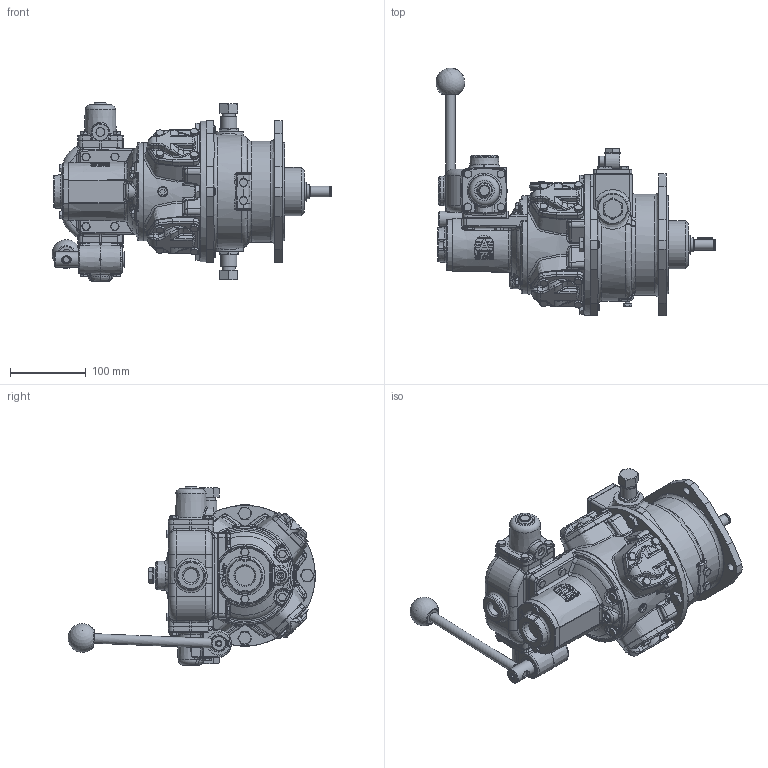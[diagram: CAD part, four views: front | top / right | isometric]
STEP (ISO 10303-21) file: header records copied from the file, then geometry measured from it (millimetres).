
FILE_DESCRIPTION (( 'STEP AP214' ), '1' );
FILE_NAME ('RM110+HCV110+RM110 Brake Defeature + Logo.STEP', '2023-05-17T12:58:53', ( '' ), ( '' ), 'SwSTEP 2.0', 'SolidWorks 2022', '' );
FILE_SCHEMA (( 'AUTOMOTIVE_DESIGN' ));
Length unit declared in the file: millimetre
Products named in the file (1): RM110+HCV110+RM110 Brake Defeature + Logo
Bounding box: 370.17 x 327.74 x 236.5 mm (x, y, z)
Volume: 5509097.5 mm3; surface area: 325184.6 mm2
Topology: 1 solids, 13 shells, 3577 faces, 8724 edges, 5227 vertices
Faces by surface type: plane 1540, bspline 713, cylinder 579, cone 523, torus 179, sphere 43
Full cylindrical faces by diameter (mm): 2 x7, 4.2 x1, 5.1 x1, 6.05 x2, 8 x2, 8.566 x3, 9 x9, 10 x52, 11 x8, 11.7 x1, 11.875 x8, 12.7 x1, 13 x9, 13.157 x2, 14 x2, 16 x4, 17.78 x2, 18.631 x2, 19 x3, 20 x3, 20.57 x2, 20.955 x2, 21.5 x3, 25.4 x1, 25.46 x1, 30 x2, 38.423 x1, 38.45 x1, 40.59 x1, 46.99 x1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
Entity records: 196949 total; most frequent: CARTESIAN_POINT 82376, ORIENTED_EDGE 16536, DIRECTION 13989, EDGE_CURVE 8268, AXIS2_PLACEMENT_3D 5448, VERTEX_POINT 5090, EDGE_LOOP 3974, FACE_OUTER_BOUND 3743
